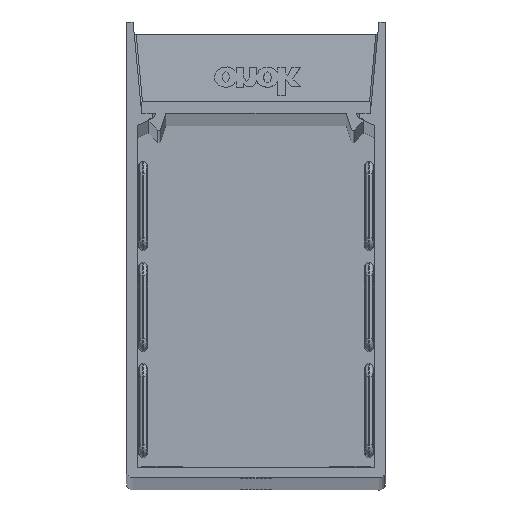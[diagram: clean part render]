
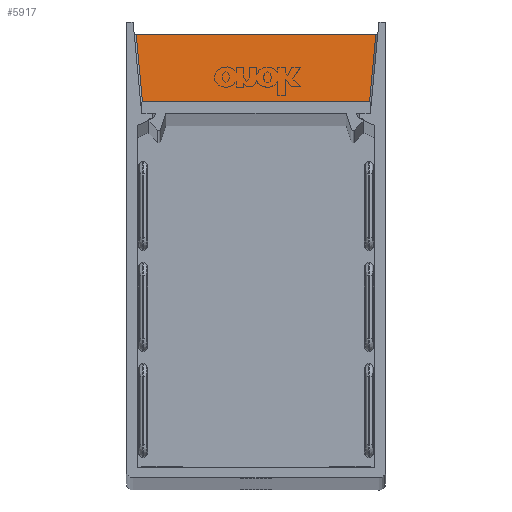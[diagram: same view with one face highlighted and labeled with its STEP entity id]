
A CAD part, top view. The second image highlights one B-rep face of the part: STEP entity #5917.
In plain terms, the highlighted planar face has unit normal (0, 0.093, 0.996) as drawn and (0, 0.093, -0.996) by its records, which use the part's own axes.
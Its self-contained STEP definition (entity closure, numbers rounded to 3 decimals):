
#308 = CARTESIAN_POINT ( 'NONE',  ( 19.652, 37.375, 1.4 ) ) ;
#905 = ORIENTED_EDGE ( 'NONE', *, *, #8471, .F. ) ;
#1007 = VERTEX_POINT ( 'NONE', #2242 ) ;
#1425 = CARTESIAN_POINT ( 'NONE',  ( 18.256, 22.421, 0.004 ) ) ;
#1934 = LINE ( 'NONE', #1425, #3383 ) ;
#2229 = VECTOR ( 'NONE', #5685, 1000. ) ;
#2242 = CARTESIAN_POINT ( 'NONE',  ( -19.652, 37.375, 1.4 ) ) ;
#2482 = CARTESIAN_POINT ( 'NONE',  ( 21.25, 37.375, 1.4 ) ) ;
#2583 = LINE ( 'NONE', #5214, #4429 ) ;
#2719 = EDGE_LOOP ( 'NONE', ( #905, #6731, #4726, #8761 ) ) ;
#2722 = AXIS2_PLACEMENT_3D ( 'NONE', #2482, #8609, #4590 ) ;
#2745 = DIRECTION ( 'NONE',  ( -0.093, 0.991, 0.093 ) ) ;
#2761 = VERTEX_POINT ( 'NONE', #308 ) ;
#2997 = EDGE_CURVE ( 'NONE', #5170, #1007, #5268, .T. ) ;
#3156 = DIRECTION ( 'NONE',  ( -1., 0., 0. ) ) ;
#3383 = VECTOR ( 'NONE', #4920, 1000. ) ;
#4429 = VECTOR ( 'NONE', #3156, 1000. ) ;
#4481 = FACE_OUTER_BOUND ( 'NONE', #2719, .T. ) ;
#4590 = DIRECTION ( 'NONE',  ( 1., 0., 0. ) ) ;
#4631 = CARTESIAN_POINT ( 'NONE',  ( -18.252, 22.375, 0. ) ) ;
#4726 = ORIENTED_EDGE ( 'NONE', *, *, #7364, .F. ) ;
#4920 = DIRECTION ( 'NONE',  ( -0.093, -0.991, -0.093 ) ) ;
#4941 = CARTESIAN_POINT ( 'NONE',  ( 18.252, 22.375, 0. ) ) ;
#5004 = CARTESIAN_POINT ( 'NONE',  ( 21.25, 22.375, 0. ) ) ;
#5039 = VECTOR ( 'NONE', #2745, 1000. ) ;
#5170 = VERTEX_POINT ( 'NONE', #4631 ) ;
#5214 = CARTESIAN_POINT ( 'NONE',  ( -21.25, 37.375, 1.4 ) ) ;
#5268 = LINE ( 'NONE', #7498, #5039 ) ;
#5685 = DIRECTION ( 'NONE',  ( 1., 0., 0. ) ) ;
#5916 = PLANE ( 'NONE',  #2722 ) ;
#5917 = ADVANCED_FACE ( 'NONE', ( #4481 ), #5916, .T. ) ;
#6565 = EDGE_CURVE ( 'NONE', #2761, #7763, #1934, .T. ) ;
#6731 = ORIENTED_EDGE ( 'NONE', *, *, #2997, .T. ) ;
#7364 = EDGE_CURVE ( 'NONE', #2761, #1007, #2583, .T. ) ;
#7498 = CARTESIAN_POINT ( 'NONE',  ( -19.656, 37.421, 1.404 ) ) ;
#7671 = LINE ( 'NONE', #5004, #2229 ) ;
#7763 = VERTEX_POINT ( 'NONE', #4941 ) ;
#8471 = EDGE_CURVE ( 'NONE', #5170, #7763, #7671, .T. ) ;
#8609 = DIRECTION ( 'NONE',  ( 0., 0.093, -0.996 ) ) ;
#8761 = ORIENTED_EDGE ( 'NONE', *, *, #6565, .T. ) ;
